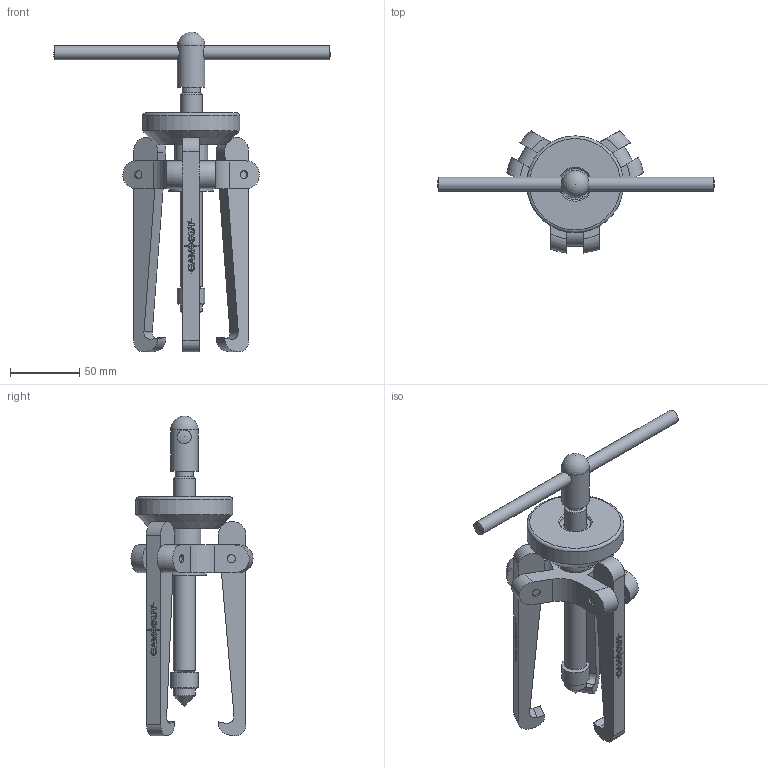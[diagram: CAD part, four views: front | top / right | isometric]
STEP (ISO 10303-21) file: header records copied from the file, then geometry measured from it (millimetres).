
FILE_DESCRIPTION((''),'2;1');
FILE_NAME('C:\Users\User\Desktop\Mastercam-harjoitukset\3-Jaw_Puller\3-Jaw_Puller.stp','2020-04-18T12:15:50',(''),(''),'STEP Write','Mastercam 2020 ... CNC Software, Inc.','');
FILE_SCHEMA(('AUTOMOTIVE_DESIGN'));
Length unit declared in the file: millimetre
Products named in the file (1): None
Bounding box: 200 x 88.21 x 231.13 mm (x, y, z)
Volume: 280167.8 mm3; surface area: 85673.6 mm2
Topology: 12 solids, 12 shells, 1109 faces, 2886 edges, 1925 vertices
Faces by surface type: plane 688, bspline 315, cylinder 82, cone 14, torus 7, sphere 3
Full cylindrical faces by diameter (mm): 2.5 x1, 3.3 x1, 6 x12, 8 x1, 10 x2, 12 x3, 13 x1, 14.5 x1, 16 x2, 17 x1, 20 x2, 22 x1, 22.5 x1, 24 x1, 27 x2, 32 x1, 70 x1
Entity records: 36905 total; most frequent: CARTESIAN_POINT 10880, ORIENTED_EDGE 5614, DIRECTION 3918, EDGE_CURVE 2807, VECTOR 1968, LINE 1968, VERTEX_POINT 1899, EDGE_LOOP 1316
